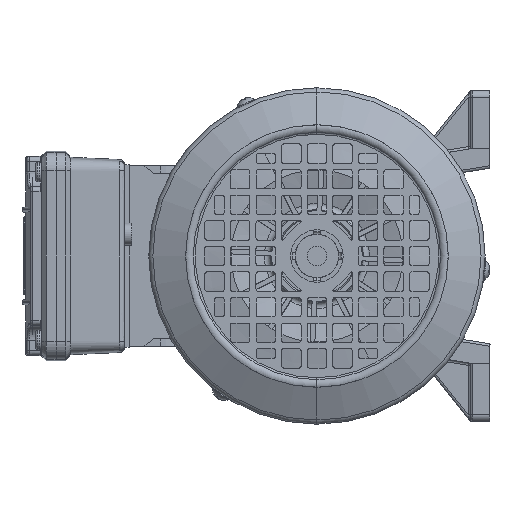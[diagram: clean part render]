
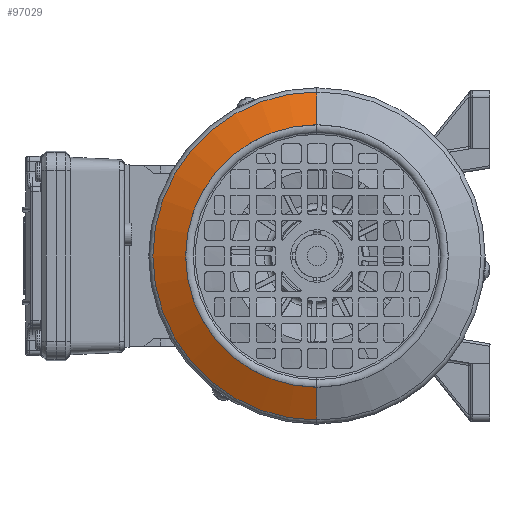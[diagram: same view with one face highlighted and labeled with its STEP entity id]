
A CAD part, left-side view. The second image highlights one B-rep face of the part: STEP entity #97029.
In plain terms, the highlighted conical face has half-angle 64 degrees and reference radius 67.315 mm.
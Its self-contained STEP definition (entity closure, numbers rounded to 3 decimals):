
#3650 = ORIENTED_EDGE ( 'NONE', *, *, #68765, .F. ) ;
#4098 = DIRECTION ( 'NONE',  ( -1., 0., 0. ) ) ;
#13129 = CARTESIAN_POINT ( 'NONE',  ( 67.315, 6.802, 0. ) ) ;
#13134 = VECTOR ( 'NONE', #33655, 1000. ) ;
#13465 = DIRECTION ( 'NONE',  ( 0.899, 0.438, 0. ) ) ;
#15361 = VECTOR ( 'NONE', #13465, 1000. ) ;
#20628 = CARTESIAN_POINT ( 'NONE',  ( -67.315, 6.802, 0. ) ) ;
#21643 = CARTESIAN_POINT ( 'NONE',  ( 67.315, 6.802, 0. ) ) ;
#26869 = AXIS2_PLACEMENT_3D ( 'NONE', #87888, #49361, #65118 ) ;
#27669 = CIRCLE ( 'NONE', #53770, 67.315 ) ;
#32302 = CARTESIAN_POINT ( 'NONE',  ( -53.887, 0.253, 0. ) ) ;
#32782 = DIRECTION ( 'NONE',  ( 0., 1., 0. ) ) ;
#33544 = LINE ( 'NONE', #86867, #13134 ) ;
#33655 = DIRECTION ( 'NONE',  ( -0.899, 0.438, 0. ) ) ;
#33754 = CONICAL_SURFACE ( 'NONE', #26869, 67.315, 1.117 ) ;
#40915 = FACE_OUTER_BOUND ( 'NONE', #80259, .T. ) ;
#41771 = VERTEX_POINT ( 'NONE', #32302 ) ;
#42024 = EDGE_CURVE ( 'NONE', #79563, #62542, #76520, .T. ) ;
#47007 = CIRCLE ( 'NONE', #63470, 53.887 ) ;
#49361 = DIRECTION ( 'NONE',  ( 0., 1., 0. ) ) ;
#49927 = DIRECTION ( 'NONE',  ( 0., 1., 0. ) ) ;
#53770 = AXIS2_PLACEMENT_3D ( 'NONE', #95917, #49927, #4098 ) ;
#60631 = EDGE_CURVE ( 'NONE', #41771, #79563, #47007, .T. ) ;
#60969 = ORIENTED_EDGE ( 'NONE', *, *, #60631, .T. ) ;
#61359 = CARTESIAN_POINT ( 'NONE',  ( 53.887, 0.253, 0. ) ) ;
#62492 = VERTEX_POINT ( 'NONE', #20628 ) ;
#62542 = VERTEX_POINT ( 'NONE', #21643 ) ;
#63470 = AXIS2_PLACEMENT_3D ( 'NONE', #78652, #32782, #86346 ) ;
#65118 = DIRECTION ( 'NONE',  ( -1., 0., 0. ) ) ;
#68765 = EDGE_CURVE ( 'NONE', #62492, #62542, #27669, .T. ) ;
#76520 = LINE ( 'NONE', #13129, #15361 ) ;
#78652 = CARTESIAN_POINT ( 'NONE',  ( 0., 0.253, 0. ) ) ;
#79563 = VERTEX_POINT ( 'NONE', #61359 ) ;
#80259 = EDGE_LOOP ( 'NONE', ( #60969, #81985, #3650, #88683 ) ) ;
#81985 = ORIENTED_EDGE ( 'NONE', *, *, #42024, .T. ) ;
#86346 = DIRECTION ( 'NONE',  ( -1., 0., 0. ) ) ;
#86867 = CARTESIAN_POINT ( 'NONE',  ( -67.315, 6.802, 0. ) ) ;
#87888 = CARTESIAN_POINT ( 'NONE',  ( 0., 6.802, 0. ) ) ;
#88683 = ORIENTED_EDGE ( 'NONE', *, *, #94162, .F. ) ;
#94162 = EDGE_CURVE ( 'NONE', #41771, #62492, #33544, .T. ) ;
#95917 = CARTESIAN_POINT ( 'NONE',  ( 0., 6.802, 0. ) ) ;
#97029 = ADVANCED_FACE ( 'NONE', ( #40915 ), #33754, .T. ) ;
